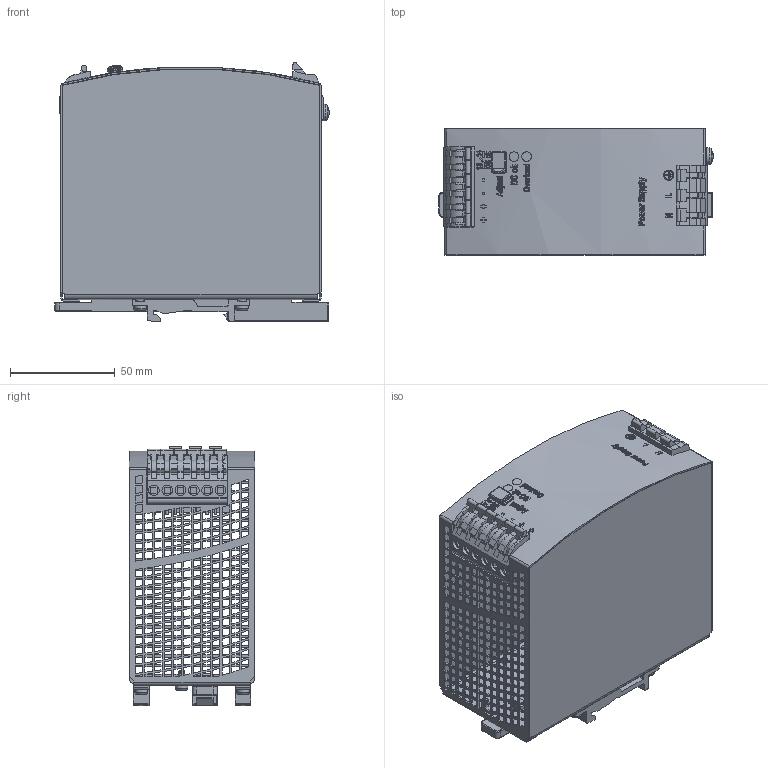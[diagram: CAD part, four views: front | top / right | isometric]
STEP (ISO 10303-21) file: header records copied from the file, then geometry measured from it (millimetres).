
FILE_DESCRIPTION((''),'2;1');
FILE_NAME('C:\Dokumente und Einstellungen\raabk-neu\Eigene Dateien\tmp\MOCKUP\QS10.241.stp','2007-12-05T11:11:26',('raabk'),(''),'Autodesk Inventor 11','Autodesk Inventor 11','');
FILE_SCHEMA(('AUTOMOTIVE_DESIGN { 1 0 10303 214 1 1 1 1 }'));
Length unit declared in the file: millimetre
Products named in the file (13): 339.00; HOUSING COVER 339.00; HOUSING BODY 339.00; TERMINAL 3P R9,52; TERMINAL 6P R6,35; SCREW 4x8; T HOLDER; SCREW 3x6; SLIDER; POTENTIOMETER COVER; LED GN; LED RD; WASHER 4
Assembly tree (18 placements, depth 2):
  339.00
    HOUSING COVER 339.00
    HOUSING BODY 339.00
    TERMINAL 3P R9,52
    TERMINAL 6P R6,35
    SCREW 4x8
    T HOLDER  x2
    SCREW 3x6  x6
    SLIDER
    POTENTIOMETER COVER
    LED GN
    LED RD
    WASHER 4
Bounding box: 130.77 x 60.05 x 123.54 mm (x, y, z)
Volume: 93483.6 mm3; surface area: 120230.1 mm2
Topology: 18 solids, 18 shells, 3160 faces, 9034 edges, 6010 vertices
Faces by surface type: plane 2485, bspline 326, cylinder 290, torus 26, cone 20, sphere 13
Full cylindrical faces by diameter (mm): 1.25 x9, 3 x6, 3.1 x4, 3.621 x1, 4 x1, 4.355 x1, 4.5 x1, 4.6 x2, 5 x6, 5.5 x3, 6 x6
Entity records: 186693 total; most frequent: CARTESIAN_POINT 107553, ORIENTED_EDGE 17296, DIRECTION 13804, EDGE_CURVE 8648, VECTOR 7152, LINE 7152, VERTEX_POINT 5771, EDGE_LOOP 4037
